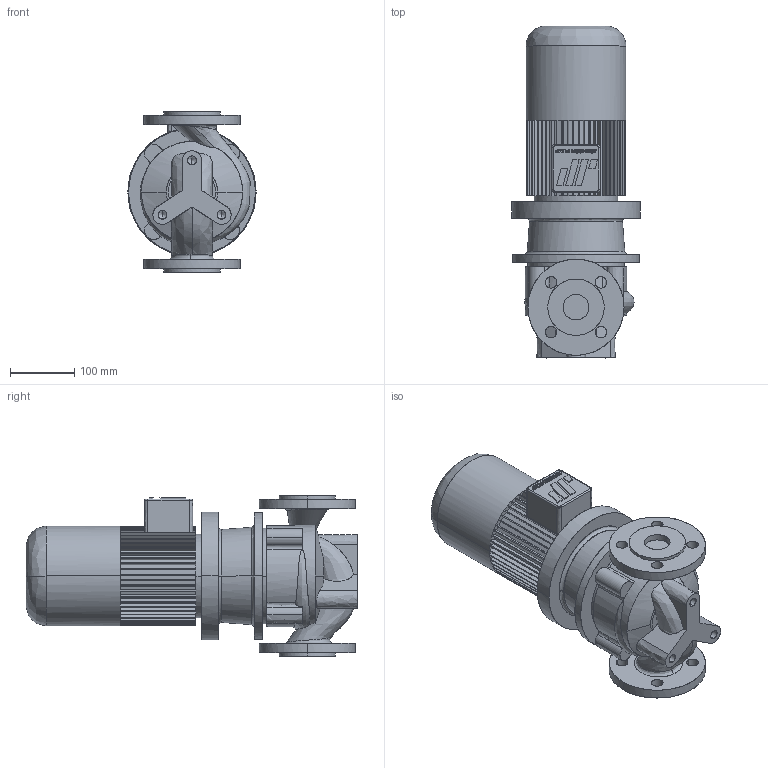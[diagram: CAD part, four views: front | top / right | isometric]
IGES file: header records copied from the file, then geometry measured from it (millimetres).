
Start section: CombiLine
Global section: file name: CLB_40-125_IEC80_ND10.igs; native system:  By UGS Corp.; preprocessor: XPlus GENERIC/IGES 3.0; author: Stageplaats; organization: Johnson Pump Water B.V.; date: 20070716.101208; units: millimetre
Bounding box: 200 x 518 x 250 mm (x, y, z)
Surface area: 558026 mm2 (no closed solid volume)
Topology: 0 solids, 0 shells, 514 faces, 3129 edges, 3123 vertices
Faces by surface type: bspline 514
